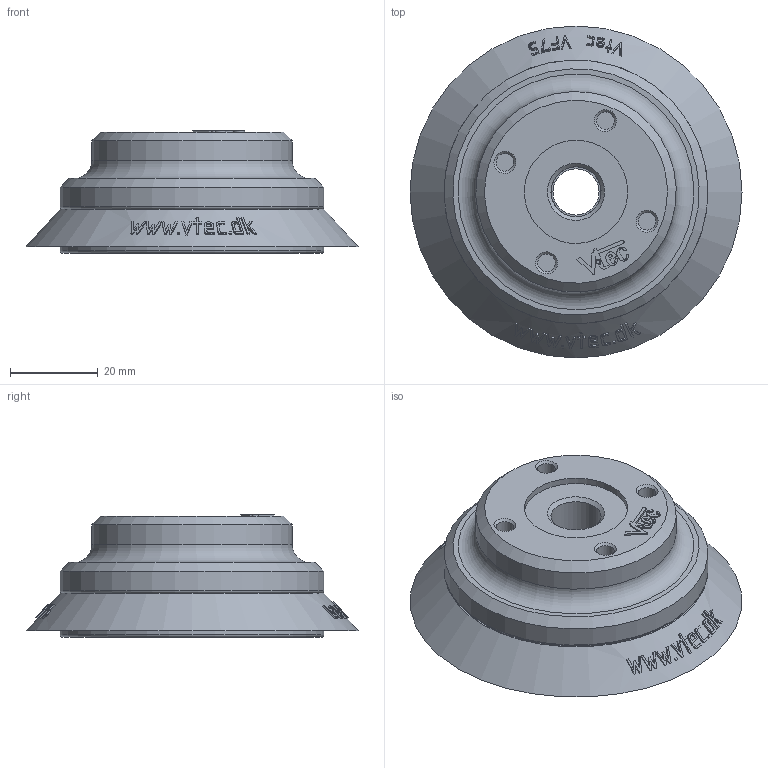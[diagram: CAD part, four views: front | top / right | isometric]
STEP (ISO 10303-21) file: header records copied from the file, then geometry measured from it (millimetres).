
FILE_DESCRIPTION( ( 'STEP AP203' ), '1' );
FILE_NAME( 'C:/Documents and Settings/Owner/官帕 拳搁/3D/Vacuum Pad/VF series/VF75-14F.stp', '2006-04-25T04:57:48', ( ' ' ), ( ' ' ), 'XStep 1.0', ' ', ' ' );
FILE_SCHEMA( ( 'CONFIG_CONTROL_DESIGN) ( )' ) );
Length unit declared in the file: metre
Products named in the file (3): Assem1; 1; 2
Bounding box: 75.5 x 75.5 x 27.8 mm (x, y, z)
Volume: 97167.8 mm3; surface area: 43597.8 mm2
Topology: 4 solids, 4 shells, 680 faces, 1742 edges, 1156 vertices
Faces by surface type: bspline 324, plane 142, cylinder 138, cone 64, torus 8, extrusion 4
Full cylindrical faces by diameter (mm): 0.791 x2, 4 x16, 6 x8, 10.5 x2, 11.4 x2, 15 x2, 23.5 x2, 45.6 x2, 55 x4, 60 x2
Entity records: 15964 total; most frequent: CARTESIAN_POINT 8771, ORIENTED_EDGE 1650, DIRECTION 1001, EDGE_CURVE 825, VERTEX_POINT 567, EDGE_LOOP 430, FACE_OUTER_BOUND 365, B_SPLINE_CURVE_WITH_KNOTS 363
